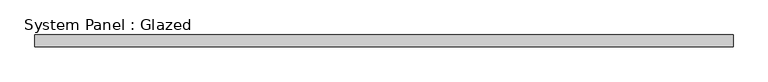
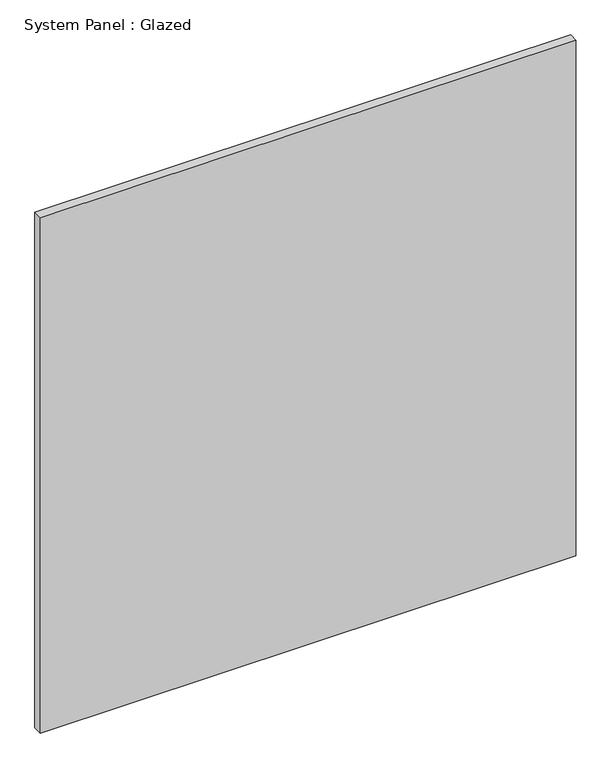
"""IFC4 building model written with IfcOpenShell, lengths in millimetres: plate geometry, System Panel : Glazed."""

from ifc_helpers import new_model, si_unit, origin, origin_with_axes, place, context, project, spatial, polyline, outline, extrude, source, transform, mapped, element, save


def system_panel_glazed_b8bd361a(model_context):
    return source(origin(), model_context, "Body", "SweptSolid", [
        extrude(outline(polyline([(724.5, 24.5), (-724.5, 24.5), (-724.5, 49.5), (724.5, 49.5), (724.5, 24.5)])), origin_with_axes(), (0.0, 0.0, 1.0), 1474.0),
    ])


if __name__ == "__main__":
    model = new_model("IFC4")
    model_context = context("Model", 3, world=origin())
    ifc_project = project(units=[si_unit("LENGTHUNIT", "METRE", prefix="MILLI")], contexts=[model_context])
    site = spatial("IfcSite", under=ifc_project)
    building = spatial("IfcBuilding", under=site)
    placement = place(None, origin())
    system_panel_glazed_shape = system_panel_glazed_b8bd361a(model_context)
    element("IfcPlate", 1, ObjectType="System Panel : Glazed", at=placement, inside=building, context=model_context, shape_type="MappedRepresentation", body=[
        mapped(system_panel_glazed_shape, transform((0.0, 0.0, 0.0), x_axis=(1.0, 0.0, 0.0), y_axis=(0.0, 1.0, 0.0), z_axis=(0.0, 0.0, 1.0))),
    ])
    save(model, "model.ifc")
